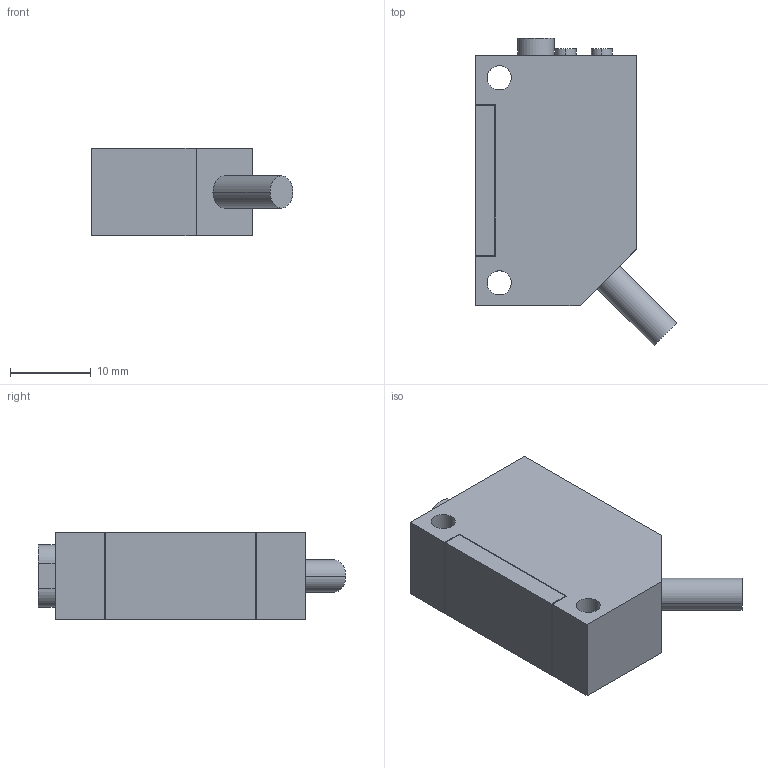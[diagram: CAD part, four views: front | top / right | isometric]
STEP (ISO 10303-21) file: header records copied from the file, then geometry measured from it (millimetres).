
FILE_DESCRIPTION (( 'STEP AP203' ), '1' );
FILE_NAME ('E3Z_R61.step', '2013-07-18T11:58:57', ( 'OSMC1.0 TAKUMI' ), ( 'TAKUMI-Engniaring' ), 'SwSTEP 2.0', 'SolidWorks 2002025', '' );
FILE_SCHEMA (( 'CONFIG_CONTROL_DESIGN' ));
Length unit declared in the file: millimetre
Products named in the file (1): E3Z_R61
Bounding box: 24.99 x 38.09 x 10.8 mm (x, y, z)
Volume: 6468.2 mm3; surface area: 2772 mm2
Topology: 1 solids, 1 shells, 54 faces, 132 edges, 88 vertices
Faces by surface type: plane 33, cylinder 21
Entity records: 1683 total; most frequent: DIRECTION 284, CARTESIAN_POINT 275, ORIENTED_EDGE 264, EDGE_CURVE 132, AXIS2_PLACEMENT_3D 97, LINE 90, VECTOR 90, VERTEX_POINT 88
